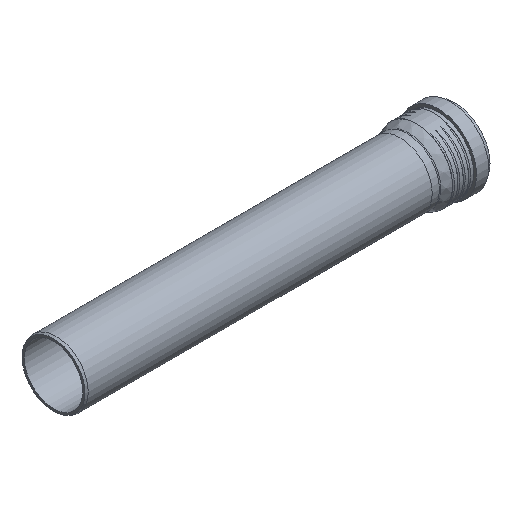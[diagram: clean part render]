
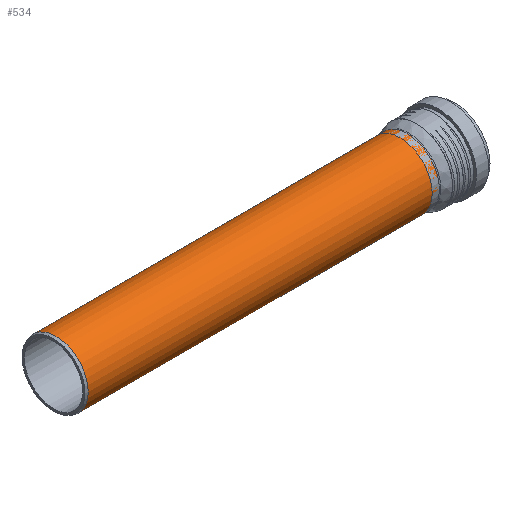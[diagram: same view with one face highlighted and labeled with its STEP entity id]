
A CAD part, isometric view. The second image highlights one B-rep face of the part: STEP entity #534.
In plain terms, the highlighted cylindrical face has radius 45.1 mm (diameter 90.2 mm), a full revolution.
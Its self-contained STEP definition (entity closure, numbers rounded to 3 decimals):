
#66=CYLINDRICAL_SURFACE('',#580,45.1);
#87=FACE_BOUND('',#158,.T.);
#122=FACE_OUTER_BOUND('',#157,.T.);
#157=EDGE_LOOP('',(#370));
#158=EDGE_LOOP('',(#371));
#222=CIRCLE('',#576,45.1);
#225=CIRCLE('',#581,45.1);
#249=VERTEX_POINT('',#771);
#252=VERTEX_POINT('',#779);
#304=EDGE_CURVE('',#249,#249,#222,.T.);
#307=EDGE_CURVE('',#252,#252,#225,.T.);
#370=ORIENTED_EDGE('',*,*,#307,.F.);
#371=ORIENTED_EDGE('',*,*,#304,.F.);
#534=ADVANCED_FACE('',(#122,#87),#66,.T.);
#576=AXIS2_PLACEMENT_3D('',#772,#643,#644);
#580=AXIS2_PLACEMENT_3D('',#778,#651,#652);
#581=AXIS2_PLACEMENT_3D('',#780,#653,#654);
#643=DIRECTION('center_axis',(-1.,0.,0.));
#644=DIRECTION('ref_axis',(0.,1.,0.));
#651=DIRECTION('center_axis',(1.,0.,0.));
#652=DIRECTION('ref_axis',(0.,1.,0.));
#653=DIRECTION('center_axis',(1.,0.,0.));
#654=DIRECTION('ref_axis',(0.,1.,0.));
#771=CARTESIAN_POINT('',(-244.7,-45.1,0.));
#772=CARTESIAN_POINT('Origin',(-244.7,0.,0.));
#778=CARTESIAN_POINT('Origin',(0.,0.,
0.));
#779=CARTESIAN_POINT('',(248.2,-45.1,0.));
#780=CARTESIAN_POINT('Origin',(248.2,0.,0.));
